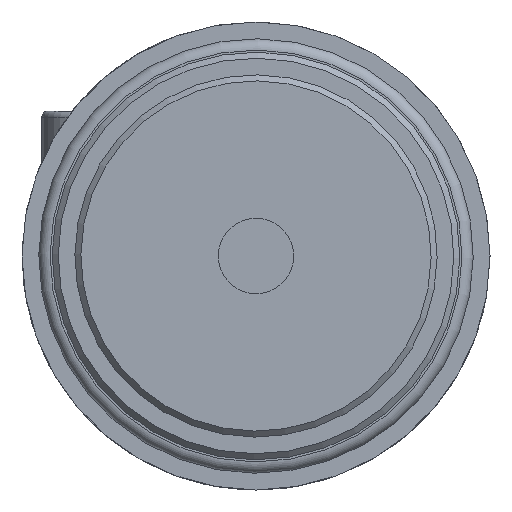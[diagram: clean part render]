
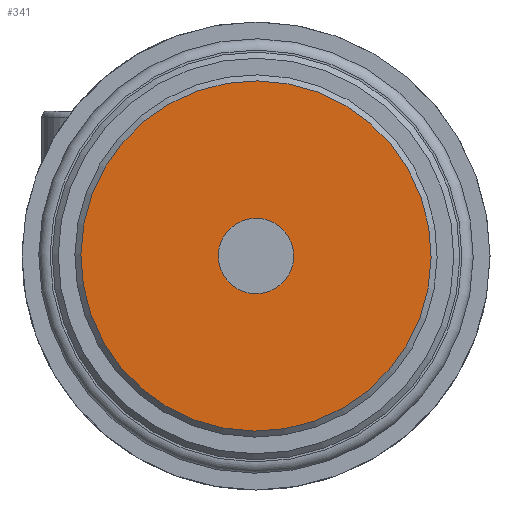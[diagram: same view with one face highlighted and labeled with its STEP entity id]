
A CAD part, left-side view. The second image highlights one B-rep face of the part: STEP entity #341.
In plain terms, the highlighted planar face has unit normal (-1, 0, 0) as drawn and (1, 0, 0) by its records, which use the part's own axes.
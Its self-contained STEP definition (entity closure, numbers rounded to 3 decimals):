
#341 = ADVANCED_FACE( '', ( #783, #784 ), #785, .T. );
#783 = FACE_OUTER_BOUND( '', #1487, .T. );
#784 = FACE_BOUND( '', #1488, .T. );
#785 = PLANE( '', #1489 );
#1487 = EDGE_LOOP( '', ( #2200 ) );
#1488 = EDGE_LOOP( '', ( #2201 ) );
#1489 = AXIS2_PLACEMENT_3D( '', #2202, #2203, #2204 );
#2200 = ORIENTED_EDGE( '', *, *, #3601, .T. );
#2201 = ORIENTED_EDGE( '', *, *, #3602, .T. );
#2202 = CARTESIAN_POINT( '', ( 13., 0., 6. ) );
#2203 = DIRECTION( '', ( 1., 0., 0. ) );
#2204 = DIRECTION( '', ( 0., 0., -1. ) );
#3601 = EDGE_CURVE( '', #4145, #4145, #4146, .T. );
#3602 = EDGE_CURVE( '', #4147, #4147, #4148, .T. );
#4145 = VERTEX_POINT( '', #4915 );
#4146 = CIRCLE( '', #4916, 5.8 );
#4147 = VERTEX_POINT( '', #4917 );
#4148 = CIRCLE( '', #4918, 1.25 );
#4915 = CARTESIAN_POINT( '', ( 13., 0., -5.8 ) );
#4916 = AXIS2_PLACEMENT_3D( '', #5905, #5906, #5907 );
#4917 = CARTESIAN_POINT( '', ( 13., 0., 1.25 ) );
#4918 = AXIS2_PLACEMENT_3D( '', #5908, #5909, #5910 );
#5905 = CARTESIAN_POINT( '', ( 13., 0., 0. ) );
#5906 = DIRECTION( '', ( 1., 0., 0. ) );
#5907 = DIRECTION( '', ( 0., 0., -1. ) );
#5908 = CARTESIAN_POINT( '', ( 13., 0., 0. ) );
#5909 = DIRECTION( '', ( -1., 0., 0. ) );
#5910 = DIRECTION( '', ( 0., 0., 1. ) );
